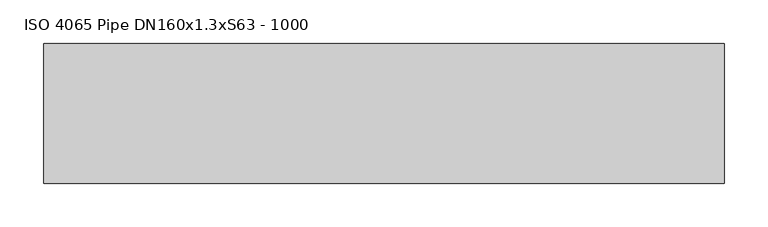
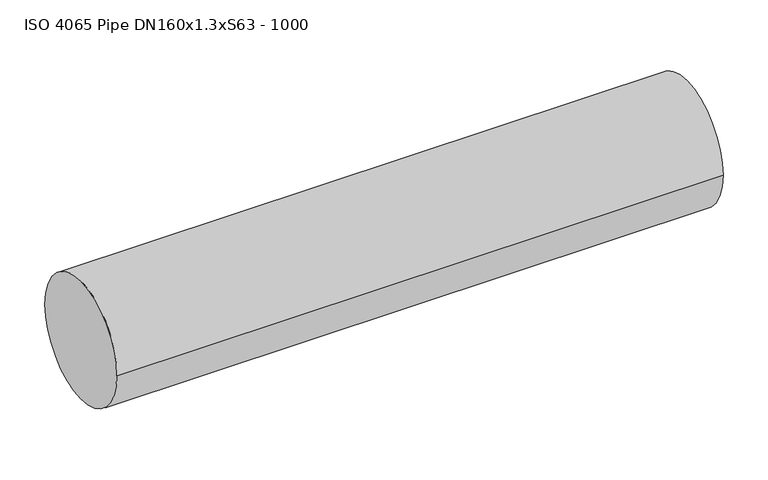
"""IFC4 building model written with IfcOpenShell, lengths in millimetres: proxy geometry, ISO 4065 Pipe DN160x1.3xS63 - 1000."""

from ifc_helpers import new_model, si_unit, frame, origin, place, context, project, spatial, circle_curve, source, transform, mapped, element, save
from ifc_brep_helpers import plane_surface, cylinder_surface, advanced_brep


def iso_4065_pipe_dn160x1_3xs63_1000_2405643b(model_context):
    return source(origin(), model_context, "Body", "AdvancedBrep", [
        advanced_brep(
        [(222.0, -80.0, 0.0), (1000.0, -80.0, 0.0), (1000.0, 80.0, 0.0), (222.0, 80.0, 0.0), (222.0, 0.0, -80.0)],
        [
            (0, 1),
            (1, 2, circle_curve(frame((1000.0, 0.0, 0.0), z_axis=(-1.0, 0.0, 0.0), x_axis=(0.0, -1.0, 0.0)), 80.0)),
            (2, 3),
            (3, 0, circle_curve(frame((222.0, 0.0, 0.0), z_axis=(1.0, 0.0, 0.0), x_axis=(0.0, -1.0, 0.0)), 80.0)),
            (1, 2, circle_curve(frame((1000.0, 0.0, 0.0), z_axis=(1.0, 0.0, 0.0), x_axis=(0.0, -1.0, 0.0)), 80.0)),
            (3, 4, circle_curve(frame((222.0, 0.0, 0.0), z_axis=(-1.0, 0.0, 0.0), x_axis=(0.0, -1.0, 0.0)), 80.0)),
            (4, 0, circle_curve(frame((222.0, 0.0, 0.0), z_axis=(-1.0, 0.0, 0.0), x_axis=(0.0, -1.0, 0.0)), 80.0)),
        ],
        [
            cylinder_surface(frame((0.0, 0.0, 0.0), z_axis=(1.0, 0.0, 0.0), x_axis=(0.0, -1.0, 0.0)), 80.0),
            plane_surface(frame((1000.0, 0.0, 0.0), z_axis=(1.0, 0.0, 0.0), x_axis=(0.0, 0.0, 1.0))),
            plane_surface(frame((222.0, 0.0, 0.0), z_axis=(-1.0, 0.0, 0.0), x_axis=(0.0, 0.0, -1.0))),
        ],
        [
            (0, [[1, 2, 3, 4]]),
            (1, [[5, -2]]),
            (2, [[6, 7, -4]]),
            (0, [[-1, -7, -6, -3, -5]]),
        ],
    ),
    ])


if __name__ == "__main__":
    model = new_model("IFC4")
    model_context = context("Model", 3, world=origin())
    ifc_project = project(units=[si_unit("LENGTHUNIT", "METRE", prefix="MILLI")], contexts=[model_context])
    site = spatial("IfcSite", under=ifc_project)
    building = spatial("IfcBuilding", under=site)
    placement = place(None, origin())
    iso_4065_pipe_dn160x1_3xs63_1000_shape = iso_4065_pipe_dn160x1_3xs63_1000_2405643b(model_context)
    element("IfcBuildingElementProxy", 1, Name="ISO 4065 Pipe DN160x1.3xS63 - 1000", ObjectType="ISO 4065 Pipe DN160x1.3xS63 - 1000", at=placement, inside=building, context=model_context, shape_type="MappedRepresentation", body=[
        mapped(iso_4065_pipe_dn160x1_3xs63_1000_shape, transform((0.0, 0.0, 0.0), x_axis=(1.0, 0.0, 0.0), y_axis=(0.0, 1.0, 0.0), z_axis=(0.0, 0.0, 1.0))),
    ])
    save(model, "model.ifc")
